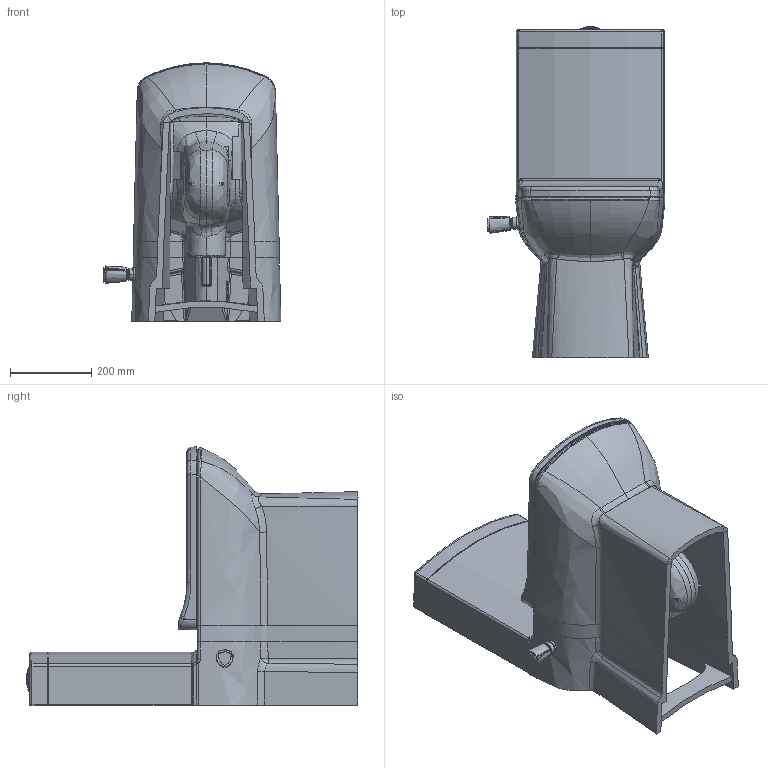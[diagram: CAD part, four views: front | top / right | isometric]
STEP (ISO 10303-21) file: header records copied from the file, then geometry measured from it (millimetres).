
FILE_DESCRIPTION (( 'STEP AP203' ), '1' );
FILE_NAME ('LR360.00400-LR410-KC3541.STEP', '2017-01-16T06:49:40', ( '' ), ( '' ), 'SwSTEP 2.0', 'SolidWorks 2016', '' );
FILE_SCHEMA (( 'CONFIG_CONTROL_DESIGN' ));
Length unit declared in the file: millimetre
Products named in the file (1): LR360.00400-LR410-KC3541
Bounding box: 436.4 x 814.93 x 633.72 mm (x, y, z)
Volume: 31923546.2 mm3; surface area: 2981658.8 mm2
Topology: 15 solids, 17 shells, 1319 faces, 3323 edges, 2022 vertices
Faces by surface type: bspline 820, cylinder 262, plane 200, cone 22, torus 9, sphere 6
Entity records: 224257 total; most frequent: CARTESIAN_POINT 199593, ORIENTED_EDGE 6570, EDGE_CURVE 3285, DIRECTION 2783, VERTEX_POINT 2022, B_SPLINE_CURVE_WITH_KNOTS 1999, EDGE_LOOP 1365, ADVANCED_FACE 1319
